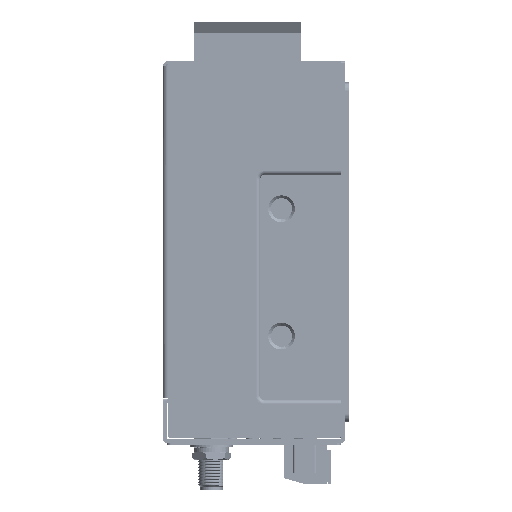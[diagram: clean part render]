
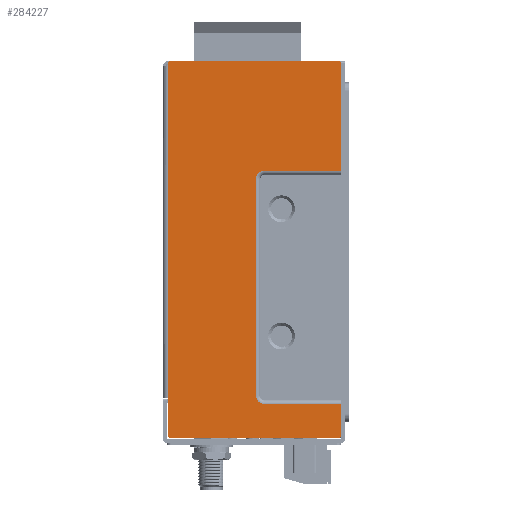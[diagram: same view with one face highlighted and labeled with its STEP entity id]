
A CAD part, left-side view. The second image highlights one B-rep face of the part: STEP entity #284227.
In plain terms, the highlighted planar face has unit normal (-1, 0, 0).
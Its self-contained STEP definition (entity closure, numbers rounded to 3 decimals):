
#4181 = VECTOR ( 'NONE', #128191, 1000. ) ;
#6580 = LINE ( 'NONE', #460958, #53882 ) ;
#11281 = LINE ( 'NONE', #250554, #4181 ) ;
#11607 = ORIENTED_EDGE ( 'NONE', *, *, #343490, .T. ) ;
#14787 = EDGE_CURVE ( 'NONE', #459026, #190977, #289924, .T. ) ;
#15874 = CARTESIAN_POINT ( 'NONE',  ( 0., 40.5, -79.1 ) ) ;
#23390 = CARTESIAN_POINT ( 'NONE',  ( 0., 0.25, -78.6 ) ) ;
#41070 = ORIENTED_EDGE ( 'NONE', *, *, #104864, .F. ) ;
#41189 = DIRECTION ( 'NONE',  ( 0., 0., -1. ) ) ;
#42098 = CARTESIAN_POINT ( 'NONE',  ( 0., 0.25, -77.923 ) ) ;
#42578 = ORIENTED_EDGE ( 'NONE', *, *, #231732, .F. ) ;
#44081 = DIRECTION ( 'NONE',  ( -1., 0., 0. ) ) ;
#44092 = ORIENTED_EDGE ( 'NONE', *, *, #156829, .T. ) ;
#46672 = VECTOR ( 'NONE', #180632, 1000. ) ;
#53882 = VECTOR ( 'NONE', #298918, 1000. ) ;
#60710 = LINE ( 'NONE', #182956, #143468 ) ;
#66460 = VERTEX_POINT ( 'NONE', #434067 ) ;
#69687 = VERTEX_POINT ( 'NONE', #99869 ) ;
#71055 = ORIENTED_EDGE ( 'NONE', *, *, #523683, .T. ) ;
#76758 = LINE ( 'NONE', #238997, #399421 ) ;
#78763 = VERTEX_POINT ( 'NONE', #256661 ) ;
#97312 = VERTEX_POINT ( 'NONE', #15874 ) ;
#99869 = CARTESIAN_POINT ( 'NONE',  ( 0., 41., -78.6 ) ) ;
#104864 = EDGE_CURVE ( 'NONE', #497278, #66460, #120837, .T. ) ;
#106315 = VECTOR ( 'NONE', #252961, 1000. ) ;
#116041 = ORIENTED_EDGE ( 'NONE', *, *, #245460, .T. ) ;
#116046 = DIRECTION ( 'NONE',  ( 0., 1., 0. ) ) ;
#120837 = LINE ( 'NONE', #248402, #309899 ) ;
#125084 = ORIENTED_EDGE ( 'NONE', *, *, #258901, .T. ) ;
#128191 = DIRECTION ( 'NONE',  ( 0., 0., -1. ) ) ;
#130519 = CARTESIAN_POINT ( 'NONE',  ( 0., 21., -51.35 ) ) ;
#132144 = DIRECTION ( 'NONE',  ( -1., 0., 0. ) ) ;
#143468 = VECTOR ( 'NONE', #512489, 1000. ) ;
#155144 = VECTOR ( 'NONE', #290839, 1000. ) ;
#156055 = FACE_OUTER_BOUND ( 'NONE', #312625, .T. ) ;
#156829 = EDGE_CURVE ( 'NONE', #254461, #69687, #60710, .T. ) ;
#158466 = DIRECTION ( 'NONE',  ( 0., 1., 0. ) ) ;
#159308 = CARTESIAN_POINT ( 'NONE',  ( 0., 40.5, 9.65 ) ) ;
#160703 = VERTEX_POINT ( 'NONE', #393720 ) ;
#161850 = DIRECTION ( 'NONE',  ( 0., 0., -1. ) ) ;
#163557 = ORIENTED_EDGE ( 'NONE', *, *, #463713, .T. ) ;
#163839 = AXIS2_PLACEMENT_3D ( 'NONE', #324314, #319088, #441351 ) ;
#164369 = ORIENTED_EDGE ( 'NONE', *, *, #182069, .T. ) ;
#180157 = EDGE_CURVE ( 'NONE', #419079, #523620, #214557, .T. ) ;
#180632 = DIRECTION ( 'NONE',  ( 0., -1., 0. ) ) ;
#181085 = VERTEX_POINT ( 'NONE', #353651 ) ;
#182069 = EDGE_CURVE ( 'NONE', #97312, #419079, #415111, .T. ) ;
#182956 = CARTESIAN_POINT ( 'NONE',  ( 0., 41., 0. ) ) ;
#190977 = VERTEX_POINT ( 'NONE', #428553 ) ;
#192943 = CARTESIAN_POINT ( 'NONE',  ( 0., 23., -51.35 ) ) ;
#193082 = CARTESIAN_POINT ( 'NONE',  ( 0., 23., -0.35 ) ) ;
#201724 = CIRCLE ( 'NONE', #269638, 2. ) ;
#204611 = DIRECTION ( 'NONE',  ( 0., -1., 0. ) ) ;
#214557 = CIRCLE ( 'NONE', #452140, 0.5 ) ;
#218587 = CARTESIAN_POINT ( 'NONE',  ( 0., 41., -53.35 ) ) ;
#226566 = VERTEX_POINT ( 'NONE', #239309 ) ;
#231732 = EDGE_CURVE ( 'NONE', #66460, #369219, #11281, .T. ) ;
#238997 = CARTESIAN_POINT ( 'NONE',  ( 0., 41., 0. ) ) ;
#239309 = CARTESIAN_POINT ( 'NONE',  ( 0., 23., -53.35 ) ) ;
#240519 = VERTEX_POINT ( 'NONE', #130519 ) ;
#241649 = AXIS2_PLACEMENT_3D ( 'NONE', #192943, #387133, #307439 ) ;
#245460 = EDGE_CURVE ( 'NONE', #160703, #181085, #284466, .T. ) ;
#248402 = CARTESIAN_POINT ( 'NONE',  ( 0., 0.25, 9.65 ) ) ;
#250554 = CARTESIAN_POINT ( 'NONE',  ( 0., 0.25, -79.1 ) ) ;
#252961 = DIRECTION ( 'NONE',  ( 0., -1., 0. ) ) ;
#254461 = VERTEX_POINT ( 'NONE', #218587 ) ;
#256661 = CARTESIAN_POINT ( 'NONE',  ( 0., 41., 9.15 ) ) ;
#258901 = EDGE_CURVE ( 'NONE', #78763, #160703, #76758, .T. ) ;
#265483 = ORIENTED_EDGE ( 'NONE', *, *, #298552, .T. ) ;
#266738 = CARTESIAN_POINT ( 'NONE',  ( 0., 21., -0.35 ) ) ;
#267385 = EDGE_CURVE ( 'NONE', #181085, #342888, #201724, .T. ) ;
#268957 = VECTOR ( 'NONE', #204611, 1000. ) ;
#269638 = AXIS2_PLACEMENT_3D ( 'NONE', #193082, #432464, #158466 ) ;
#284227 = ADVANCED_FACE ( 'NONE', ( #156055 ), #480331, .F. ) ;
#284466 = LINE ( 'NONE', #446647, #268957 ) ;
#284981 = DIRECTION ( 'NONE',  ( 0., 1., 0. ) ) ;
#286767 = ORIENTED_EDGE ( 'NONE', *, *, #520913, .T. ) ;
#289924 = LINE ( 'NONE', #452041, #46672 ) ;
#290839 = DIRECTION ( 'NONE',  ( 0., 0., -1. ) ) ;
#297058 = CARTESIAN_POINT ( 'NONE',  ( 0., 0.75, 9.15 ) ) ;
#298552 = EDGE_CURVE ( 'NONE', #226566, #254461, #449689, .T. ) ;
#298918 = DIRECTION ( 'NONE',  ( 0., 0., 1. ) ) ;
#307439 = DIRECTION ( 'NONE',  ( 0., 1., 0. ) ) ;
#308207 = AXIS2_PLACEMENT_3D ( 'NONE', #297058, #132144, #419275 ) ;
#309899 = VECTOR ( 'NONE', #41189, 1000. ) ;
#312625 = EDGE_LOOP ( 'NONE', ( #164369, #490580, #163557, #42578, #41070, #286767, #495036, #494624, #125084, #116041, #415885, #71055, #511401, #265483, #44092, #11607 ) ) ;
#319088 = DIRECTION ( 'NONE',  ( -1., 0., 0. ) ) ;
#324314 = CARTESIAN_POINT ( 'NONE',  ( 0., 40.5, -78.6 ) ) ;
#328070 = EDGE_CURVE ( 'NONE', #459026, #78763, #510794, .T. ) ;
#342888 = VERTEX_POINT ( 'NONE', #266738 ) ;
#343490 = EDGE_CURVE ( 'NONE', #69687, #97312, #393044, .T. ) ;
#350293 = DIRECTION ( 'NONE',  ( 1., 0., 0. ) ) ;
#353651 = CARTESIAN_POINT ( 'NONE',  ( 0., 23., 1.65 ) ) ;
#357415 = DIRECTION ( 'NONE',  ( -1., 0., 0. ) ) ;
#360761 = CARTESIAN_POINT ( 'NONE',  ( 0., 21., 0. ) ) ;
#369219 = VERTEX_POINT ( 'NONE', #42098 ) ;
#371000 = CARTESIAN_POINT ( 'NONE',  ( 0., 40.5, 9.15 ) ) ;
#383660 = AXIS2_PLACEMENT_3D ( 'NONE', #371000, #44081, #403044 ) ;
#387133 = DIRECTION ( 'NONE',  ( 1., 0., 0. ) ) ;
#393044 = CIRCLE ( 'NONE', #163839, 0.5 ) ;
#393720 = CARTESIAN_POINT ( 'NONE',  ( 0., 41., 1.65 ) ) ;
#394594 = CIRCLE ( 'NONE', #241649, 2. ) ;
#399421 = VECTOR ( 'NONE', #161850, 1000. ) ;
#402513 = CARTESIAN_POINT ( 'NONE',  ( 0., 0.75, -78.6 ) ) ;
#403044 = DIRECTION ( 'NONE',  ( 0., 1., 0. ) ) ;
#408988 = VECTOR ( 'NONE', #284981, 1000. ) ;
#409693 = CARTESIAN_POINT ( 'NONE',  ( 0., 0.75, -79.1 ) ) ;
#409781 = CARTESIAN_POINT ( 'NONE',  ( 0., 0., -53.35 ) ) ;
#415111 = LINE ( 'NONE', #497449, #106315 ) ;
#415885 = ORIENTED_EDGE ( 'NONE', *, *, #267385, .T. ) ;
#418587 = CIRCLE ( 'NONE', #308207, 0.5 ) ;
#419079 = VERTEX_POINT ( 'NONE', #409693 ) ;
#419275 = DIRECTION ( 'NONE',  ( 0., 1., 0. ) ) ;
#428553 = CARTESIAN_POINT ( 'NONE',  ( 0., 0.75, 9.65 ) ) ;
#429959 = EDGE_CURVE ( 'NONE', #240519, #226566, #394594, .T. ) ;
#432464 = DIRECTION ( 'NONE',  ( 1., 0., 0. ) ) ;
#434067 = CARTESIAN_POINT ( 'NONE',  ( 0., 0.25, 0.15 ) ) ;
#435331 = CARTESIAN_POINT ( 'NONE',  ( 0., 0., 0. ) ) ;
#441351 = DIRECTION ( 'NONE',  ( 0., 1., 0. ) ) ;
#446647 = CARTESIAN_POINT ( 'NONE',  ( 0., 23., 1.65 ) ) ;
#449689 = LINE ( 'NONE', #409781, #408988 ) ;
#450253 = DIRECTION ( 'NONE',  ( 0., 1., 0. ) ) ;
#452041 = CARTESIAN_POINT ( 'NONE',  ( 0., 41., 9.65 ) ) ;
#452140 = AXIS2_PLACEMENT_3D ( 'NONE', #402513, #357415, #450253 ) ;
#459026 = VERTEX_POINT ( 'NONE', #159308 ) ;
#460958 = CARTESIAN_POINT ( 'NONE',  ( 0., 0.25, -119.862 ) ) ;
#463713 = EDGE_CURVE ( 'NONE', #523620, #369219, #6580, .T. ) ;
#480331 = PLANE ( 'NONE',  #524351 ) ;
#490580 = ORIENTED_EDGE ( 'NONE', *, *, #180157, .T. ) ;
#492635 = CARTESIAN_POINT ( 'NONE',  ( 0., 0.25, 9.15 ) ) ;
#494624 = ORIENTED_EDGE ( 'NONE', *, *, #328070, .T. ) ;
#495036 = ORIENTED_EDGE ( 'NONE', *, *, #14787, .F. ) ;
#497278 = VERTEX_POINT ( 'NONE', #492635 ) ;
#497449 = CARTESIAN_POINT ( 'NONE',  ( 0., 0.25, -79.1 ) ) ;
#510794 = CIRCLE ( 'NONE', #383660, 0.5 ) ;
#511401 = ORIENTED_EDGE ( 'NONE', *, *, #429959, .T. ) ;
#512489 = DIRECTION ( 'NONE',  ( 0., 0., -1. ) ) ;
#517616 = LINE ( 'NONE', #360761, #155144 ) ;
#520913 = EDGE_CURVE ( 'NONE', #497278, #190977, #418587, .T. ) ;
#523620 = VERTEX_POINT ( 'NONE', #23390 ) ;
#523683 = EDGE_CURVE ( 'NONE', #342888, #240519, #517616, .T. ) ;
#524351 = AXIS2_PLACEMENT_3D ( 'NONE', #435331, #350293, #116046 ) ;
